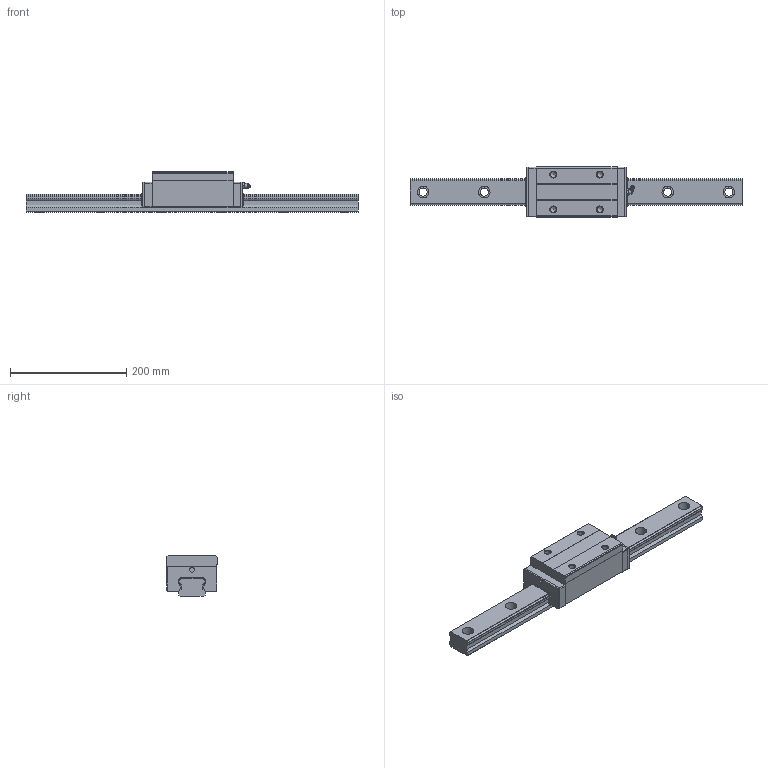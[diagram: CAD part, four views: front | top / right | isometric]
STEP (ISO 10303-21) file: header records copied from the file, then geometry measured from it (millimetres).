
FILE_DESCRIPTION((''),'2;1');
FILE_NAME('C:\Documents and Settings\土屋\My Documents\土屋移動用フォルダ\製品 (図面)\カタログ用3D\リニアガイド\EGH-L\EGH45L.stp','2015-12-16T10:29:53',('y'),(''),'Autodesk Inventor 11','Autodesk Inventor 11','');
FILE_SCHEMA(('AUTOMOTIVE_DESIGN { 1 0 10303 214 1 1 1 1 }'));
Length unit declared in the file: millimetre
Products named in the file (3): EGH45L; EGH45Lレール; EGH45Lキャリッジ
Assembly tree (2 placements, depth 2):
  EGH45L
    EGH45Lレール
    EGH45Lキャリッジ
Bounding box: 570 x 86 x 70 mm (x, y, z)
Volume: 1373708.2 mm3; surface area: 189518.1 mm2
Topology: 7 solids, 7 shells, 306 faces, 842 edges, 560 vertices
Faces by surface type: plane 164, cylinder 104, bspline 32, cone 4, torus 1, sphere 1
Full cylindrical faces by diameter (mm): 7.75 x1, 8 x6
Entity records: 10047 total; most frequent: CARTESIAN_POINT 2249, DIRECTION 1597, ORIENTED_EDGE 1588, EDGE_CURVE 794, VERTEX_POINT 548, AXIS2_PLACEMENT_3D 533, VECTOR 531, LINE 531
